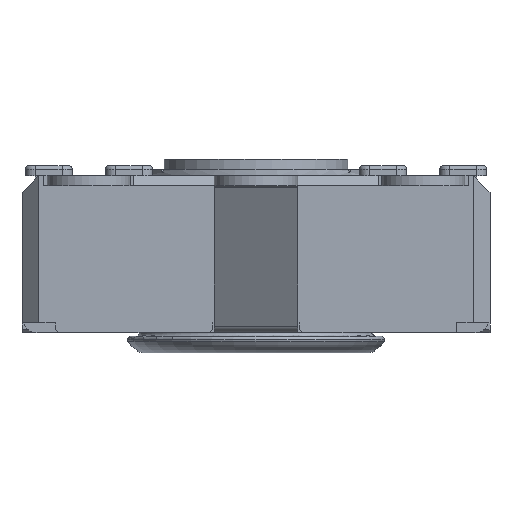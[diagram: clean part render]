
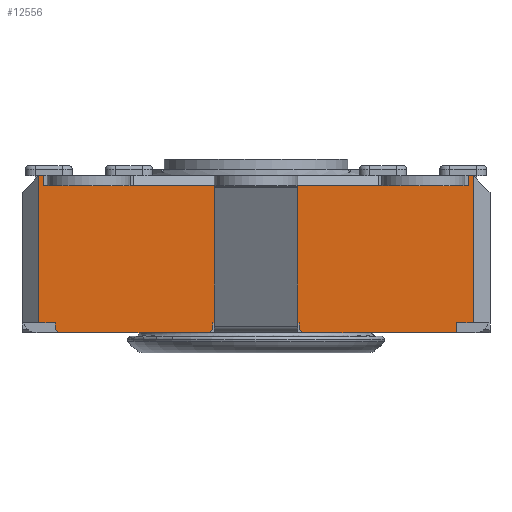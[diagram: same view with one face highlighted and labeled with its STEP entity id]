
A CAD part, front view. The second image highlights one B-rep face of the part: STEP entity #12556.
In plain terms, the highlighted planar face has unit normal (0, -1, 0).
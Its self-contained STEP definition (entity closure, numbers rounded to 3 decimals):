
#401=PLANE('',#13413);
#982=FACE_OUTER_BOUND('',#1649,.T.);
#1649=EDGE_LOOP('',(#10127,#10128,#10129,#10130,#10131,#10132,#10133,#10134,
#10135,#10136,#10137,#10138,#10139,#10140,#10141,#10142,#10143,#10144,#10145,
#10146,#10147,#10148,#10149,#10150,#10151,#10152,#10153));
#2047=LINE('',#17573,#3479);
#2118=LINE('',#17766,#3550);
#2119=LINE('',#17768,#3551);
#2120=LINE('',#17771,#3552);
#2125=LINE('',#17781,#3557);
#2187=LINE('',#17912,#3619);
#2194=LINE('',#17929,#3626);
#2323=LINE('',#18333,#3755);
#2338=LINE('',#18362,#3770);
#2406=LINE('',#18514,#3838);
#2414=LINE('',#18527,#3846);
#2532=LINE('',#18991,#3964);
#2739=LINE('',#19515,#4171);
#2744=LINE('',#19524,#4176);
#2747=LINE('',#19529,#4179);
#2835=LINE('',#19807,#4267);
#2843=LINE('',#19825,#4275);
#2849=LINE('',#19833,#4281);
#2850=LINE('',#19836,#4282);
#2851=LINE('',#19838,#4283);
#2852=LINE('',#19840,#4284);
#2853=LINE('',#19841,#4285);
#2854=LINE('',#19842,#4286);
#2855=LINE('',#19843,#4287);
#2856=LINE('',#19844,#4288);
#2857=LINE('',#19845,#4289);
#2858=LINE('',#19846,#4290);
#3479=VECTOR('',#14077,10.);
#3550=VECTOR('',#14236,10.);
#3551=VECTOR('',#14239,10.);
#3552=VECTOR('',#14242,10.);
#3557=VECTOR('',#14247,10.);
#3619=VECTOR('',#14359,10.);
#3626=VECTOR('',#14372,10.);
#3755=VECTOR('',#14797,10.);
#3770=VECTOR('',#14826,10.);
#3838=VECTOR('',#14976,10.);
#3846=VECTOR('',#14986,10.);
#3964=VECTOR('',#15236,10.);
#4171=VECTOR('',#15585,10.);
#4176=VECTOR('',#15590,10.);
#4179=VECTOR('',#15595,10.);
#4267=VECTOR('',#15821,10.);
#4275=VECTOR('',#15833,10.);
#4281=VECTOR('',#15843,10.);
#4282=VECTOR('',#15846,10.);
#4283=VECTOR('',#15847,10.);
#4284=VECTOR('',#15848,10.);
#4285=VECTOR('',#15849,10.);
#4286=VECTOR('',#15850,10.);
#4287=VECTOR('',#15851,10.);
#4288=VECTOR('',#15852,10.);
#4289=VECTOR('',#15853,10.);
#4290=VECTOR('',#15854,10.);
#5189=VERTEX_POINT('',#17450);
#5240=VERTEX_POINT('',#17572);
#5268=VERTEX_POINT('',#17648);
#5291=VERTEX_POINT('',#17698);
#5314=VERTEX_POINT('',#17752);
#5316=VERTEX_POINT('',#17758);
#5319=VERTEX_POINT('',#17770);
#5323=VERTEX_POINT('',#17778);
#5324=VERTEX_POINT('',#17780);
#5368=VERTEX_POINT('',#17910);
#5375=VERTEX_POINT('',#17928);
#5501=VERTEX_POINT('',#18330);
#5502=VERTEX_POINT('',#18332);
#5508=VERTEX_POINT('',#18359);
#5509=VERTEX_POINT('',#18361);
#5552=VERTEX_POINT('',#18513);
#5556=VERTEX_POINT('',#18525);
#5679=VERTEX_POINT('',#18987);
#5830=VERTEX_POINT('',#19514);
#5834=VERTEX_POINT('',#19522);
#5887=VERTEX_POINT('',#19805);
#5888=VERTEX_POINT('',#19806);
#5895=VERTEX_POINT('',#19823);
#5896=VERTEX_POINT('',#19824);
#5897=VERTEX_POINT('',#19835);
#5898=VERTEX_POINT('',#19837);
#5899=VERTEX_POINT('',#19839);
#6445=EDGE_CURVE('',#5240,#5189,#2047,.T.);
#6541=EDGE_CURVE('',#5314,#5268,#2118,.T.);
#6542=EDGE_CURVE('',#5316,#5291,#2119,.T.);
#6543=EDGE_CURVE('',#5319,#5240,#2120,.T.);
#6548=EDGE_CURVE('',#5324,#5323,#2125,.T.);
#6615=EDGE_CURVE('',#5268,#5368,#2187,.T.);
#6623=EDGE_CURVE('',#5375,#5314,#2194,.T.);
#6826=EDGE_CURVE('',#5502,#5501,#2323,.T.);
#6841=EDGE_CURVE('',#5509,#5508,#2338,.T.);
#6918=EDGE_CURVE('',#5552,#5316,#2406,.T.);
#6926=EDGE_CURVE('',#5291,#5556,#2414,.T.);
#7088=EDGE_CURVE('',#5509,#5679,#2532,.T.);
#7316=EDGE_CURVE('',#5830,#5679,#2739,.T.);
#7321=EDGE_CURVE('',#5189,#5834,#2744,.T.);
#7324=EDGE_CURVE('',#5324,#5501,#2747,.T.);
#7431=EDGE_CURVE('',#5887,#5888,#2835,.T.);
#7439=EDGE_CURVE('',#5895,#5896,#2843,.T.);
#7445=EDGE_CURVE('',#5319,#5887,#2849,.T.);
#7446=EDGE_CURVE('',#5834,#5897,#2850,.T.);
#7447=EDGE_CURVE('',#5898,#5897,#2851,.T.);
#7448=EDGE_CURVE('',#5898,#5899,#2852,.T.);
#7449=EDGE_CURVE('',#5899,#5830,#2853,.T.);
#7450=EDGE_CURVE('',#5508,#5552,#2854,.T.);
#7451=EDGE_CURVE('',#5375,#5556,#2855,.T.);
#7452=EDGE_CURVE('',#5368,#5502,#2856,.T.);
#7453=EDGE_CURVE('',#5323,#5896,#2857,.T.);
#7454=EDGE_CURVE('',#5895,#5888,#2858,.T.);
#10127=ORIENTED_EDGE('',*,*,#7431,.F.);
#10128=ORIENTED_EDGE('',*,*,#7445,.F.);
#10129=ORIENTED_EDGE('',*,*,#6543,.T.);
#10130=ORIENTED_EDGE('',*,*,#6445,.T.);
#10131=ORIENTED_EDGE('',*,*,#7321,.T.);
#10132=ORIENTED_EDGE('',*,*,#7446,.T.);
#10133=ORIENTED_EDGE('',*,*,#7447,.F.);
#10134=ORIENTED_EDGE('',*,*,#7448,.T.);
#10135=ORIENTED_EDGE('',*,*,#7449,.T.);
#10136=ORIENTED_EDGE('',*,*,#7316,.T.);
#10137=ORIENTED_EDGE('',*,*,#7088,.F.);
#10138=ORIENTED_EDGE('',*,*,#6841,.T.);
#10139=ORIENTED_EDGE('',*,*,#7450,.T.);
#10140=ORIENTED_EDGE('',*,*,#6918,.T.);
#10141=ORIENTED_EDGE('',*,*,#6542,.T.);
#10142=ORIENTED_EDGE('',*,*,#6926,.T.);
#10143=ORIENTED_EDGE('',*,*,#7451,.F.);
#10144=ORIENTED_EDGE('',*,*,#6623,.T.);
#10145=ORIENTED_EDGE('',*,*,#6541,.T.);
#10146=ORIENTED_EDGE('',*,*,#6615,.T.);
#10147=ORIENTED_EDGE('',*,*,#7452,.T.);
#10148=ORIENTED_EDGE('',*,*,#6826,.T.);
#10149=ORIENTED_EDGE('',*,*,#7324,.F.);
#10150=ORIENTED_EDGE('',*,*,#6548,.T.);
#10151=ORIENTED_EDGE('',*,*,#7453,.T.);
#10152=ORIENTED_EDGE('',*,*,#7439,.F.);
#10153=ORIENTED_EDGE('',*,*,#7454,.T.);
#12556=ADVANCED_FACE('',(#982),#401,.T.);
#13413=AXIS2_PLACEMENT_3D('',#19834,#15844,#15845);
#14077=DIRECTION('',(1.,0.,0.));
#14236=DIRECTION('',(-1.,0.,0.));
#14239=DIRECTION('',(-1.,0.,0.));
#14242=DIRECTION('',(1.,0.,0.));
#14247=DIRECTION('',(1.,0.,0.));
#14359=DIRECTION('',(-1.,0.,0.));
#14372=DIRECTION('',(-1.,0.,0.));
#14797=DIRECTION('',(-1.,0.,0.));
#14826=DIRECTION('',(-1.,0.,0.));
#14976=DIRECTION('',(-1.,0.,0.));
#14986=DIRECTION('',(-1.,0.,0.));
#15236=DIRECTION('',(0.,0.,-1.));
#15585=DIRECTION('',(1.,0.,0.));
#15590=DIRECTION('',(1.,0.,0.));
#15595=DIRECTION('',(0.,0.,1.));
#15821=DIRECTION('',(-0.707,0.,-0.707));
#15833=DIRECTION('',(-0.707,0.,0.707));
#15843=DIRECTION('',(0.,0.,-1.));
#15844=DIRECTION('center_axis',(0.,-1.,0.));
#15845=DIRECTION('ref_axis',(0.,0.,-1.));
#15846=DIRECTION('',(0.,0.,-1.));
#15847=DIRECTION('',(-0.707,0.,0.707));
#15848=DIRECTION('',(1.,0.,0.));
#15849=DIRECTION('',(0.,0.,1.));
#15850=DIRECTION('',(0.,0.,-1.));
#15851=DIRECTION('',(1.,0.,0.));
#15852=DIRECTION('',(0.,0.,1.));
#15853=DIRECTION('',(0.,0.,-1.));
#15854=DIRECTION('',(1.,0.,0.));
#17450=CARTESIAN_POINT('',(-6.217,-9.898,0.));
#17572=CARTESIAN_POINT('',(-8.717,-9.898,0.));
#17573=CARTESIAN_POINT('',(-14.467,-9.898,0.));
#17648=CARTESIAN_POINT('',(-13.717,-9.898,4.1));
#17698=CARTESIAN_POINT('',(-3.717,-9.898,4.1));
#17752=CARTESIAN_POINT('',(-11.217,-9.898,4.1));
#17758=CARTESIAN_POINT('',(-1.217,-9.898,4.1));
#17766=CARTESIAN_POINT('',(-3.944,-9.898,4.1));
#17768=CARTESIAN_POINT('',(-1.862,-9.898,4.1));
#17770=CARTESIAN_POINT('',(-8.767,-9.898,0.));
#17771=CARTESIAN_POINT('',(-14.467,-9.898,0.));
#17778=CARTESIAN_POINT('',(-13.467,-9.898,0.));
#17780=CARTESIAN_POINT('',(-13.967,-9.898,0.));
#17781=CARTESIAN_POINT('',(-7.245,-9.898,0.));
#17910=CARTESIAN_POINT('',(-13.817,-9.898,4.1));
#17912=CARTESIAN_POINT('',(-3.944,-9.898,4.1));
#17928=CARTESIAN_POINT('',(-11.117,-9.898,4.1));
#17929=CARTESIAN_POINT('',(-3.944,-9.898,4.1));
#18330=CARTESIAN_POINT('',(-13.967,-9.898,4.4));
#18332=CARTESIAN_POINT('',(-13.817,-9.898,4.4));
#18333=CARTESIAN_POINT('',(-14.467,-9.898,4.4));
#18359=CARTESIAN_POINT('',(-1.117,-9.898,4.4));
#18361=CARTESIAN_POINT('',(-0.967,-9.898,4.4));
#18362=CARTESIAN_POINT('',(-14.467,-9.898,4.4));
#18513=CARTESIAN_POINT('',(-1.117,-9.898,4.1));
#18514=CARTESIAN_POINT('',(-1.862,-9.898,4.1));
#18525=CARTESIAN_POINT('',(-3.817,-9.898,4.1));
#18527=CARTESIAN_POINT('',(-1.862,-9.898,4.1));
#18987=CARTESIAN_POINT('',(-0.967,-9.898,0.));
#18991=CARTESIAN_POINT('',(-0.967,-9.898,0.));
#19514=CARTESIAN_POINT('',(-1.467,-9.898,0.));
#19515=CARTESIAN_POINT('',(-0.646,-9.898,0.));
#19522=CARTESIAN_POINT('',(-6.167,-9.898,0.));
#19524=CARTESIAN_POINT('',(-14.467,-9.898,0.));
#19529=CARTESIAN_POINT('',(-13.967,-9.898,0.));
#19805=CARTESIAN_POINT('',(-8.767,-9.898,-0.2));
#19806=CARTESIAN_POINT('',(-8.867,-9.898,-0.3));
#19807=CARTESIAN_POINT('',(-6.667,-9.898,1.9));
#19823=CARTESIAN_POINT('',(-13.367,-9.898,-0.3));
#19824=CARTESIAN_POINT('',(-13.467,-9.898,-0.2));
#19825=CARTESIAN_POINT('',(-10.242,-9.898,-3.425));
#19833=CARTESIAN_POINT('',(-8.767,-9.898,0.));
#19834=CARTESIAN_POINT('Origin',(-0.467,-9.898,0.));
#19835=CARTESIAN_POINT('',(-6.167,-9.898,-0.2));
#19836=CARTESIAN_POINT('',(-6.167,-9.898,0.));
#19837=CARTESIAN_POINT('',(-6.067,-9.898,-0.3));
#19838=CARTESIAN_POINT('',(-4.767,-9.898,-1.6));
#19839=CARTESIAN_POINT('',(-1.467,-9.898,-0.3));
#19840=CARTESIAN_POINT('',(-0.467,-9.898,-0.3));
#19841=CARTESIAN_POINT('',(-1.467,-9.898,-0.15));
#19842=CARTESIAN_POINT('',(-1.117,-9.898,2.2));
#19843=CARTESIAN_POINT('',(-3.967,-9.898,4.1));
#19844=CARTESIAN_POINT('',(-13.817,-9.898,2.2));
#19845=CARTESIAN_POINT('',(-13.467,-9.898,-0.15));
#19846=CARTESIAN_POINT('',(-0.467,-9.898,-0.3));
